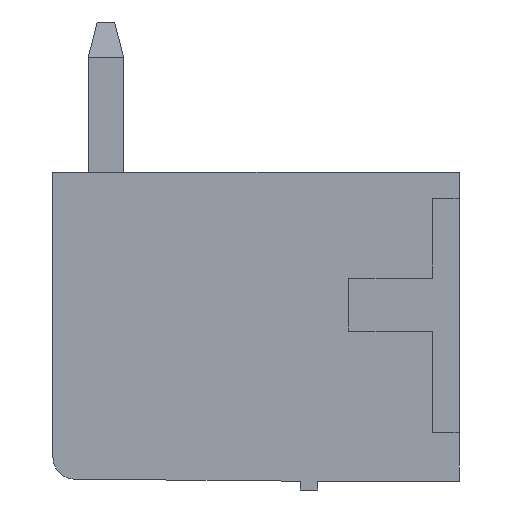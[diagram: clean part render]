
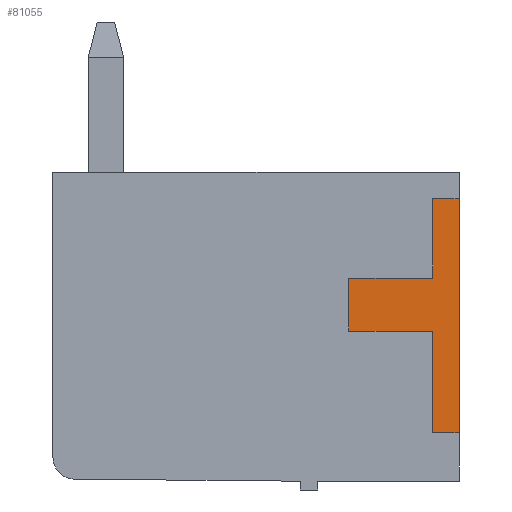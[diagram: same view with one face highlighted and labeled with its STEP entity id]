
A CAD part, left-side view. The second image highlights one B-rep face of the part: STEP entity #81055.
In plain terms, the highlighted planar face has unit normal (-1, 0, 0).
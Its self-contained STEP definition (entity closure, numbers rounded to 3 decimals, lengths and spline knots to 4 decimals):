
#3067 = PLANE('',#3068);
#3068 = AXIS2_PLACEMENT_3D('',#3069,#3070,#3071);
#3069 = CARTESIAN_POINT('',(0.,0.,7.));
#3070 = DIRECTION('',(0.,-1.,0.));
#3071 = DIRECTION('',(0.,0.,-1.));
#3515 = VERTEX_POINT('',#3516);
#3516 = CARTESIAN_POINT('',(-0.2,0.,1.1));
#3530 = PLANE('',#3531);
#3531 = AXIS2_PLACEMENT_3D('',#3532,#3533,#3534);
#3532 = CARTESIAN_POINT('',(0.,0.6,1.1));
#3533 = DIRECTION('',(0.,0.,-1.));
#3534 = DIRECTION('',(0.,-1.,0.));
#3542 = EDGE_CURVE('',#3515,#3543,#3545,.T.);
#3543 = VERTEX_POINT('',#3544);
#3544 = CARTESIAN_POINT('',(-0.2,0.,6.4));
#3545 = SURFACE_CURVE('',#3546,(#3550,#3557),.PCURVE_S1.);
#3546 = LINE('',#3547,#3548);
#3547 = CARTESIAN_POINT('',(-0.2,0.,1.1));
#3548 = VECTOR('',#3549,1.);
#3549 = DIRECTION('',(0.,0.,1.));
#3550 = PCURVE('',#3067,#3551);
#3551 = DEFINITIONAL_REPRESENTATION('',(#3552),#3556);
#3552 = LINE('',#3553,#3554);
#3553 = CARTESIAN_POINT('',(5.9,-0.2));
#3554 = VECTOR('',#3555,1.);
#3555 = DIRECTION('',(-1.,0.));
#3556 = ( GEOMETRIC_REPRESENTATION_CONTEXT(2) 
PARAMETRIC_REPRESENTATION_CONTEXT() REPRESENTATION_CONTEXT('2D SPACE',''
  ) );
#3557 = PCURVE('',#3558,#3563);
#3558 = PLANE('',#3559);
#3559 = AXIS2_PLACEMENT_3D('',#3560,#3561,#3562);
#3560 = CARTESIAN_POINT('',(-0.2,0.,0.));
#3561 = DIRECTION('',(-1.,0.,0.));
#3562 = DIRECTION('',(0.,0.,1.));
#3563 = DEFINITIONAL_REPRESENTATION('',(#3564),#3568);
#3564 = LINE('',#3565,#3566);
#3565 = CARTESIAN_POINT('',(1.1,0.));
#3566 = VECTOR('',#3567,1.);
#3567 = DIRECTION('',(1.,0.));
#3568 = ( GEOMETRIC_REPRESENTATION_CONTEXT(2) 
PARAMETRIC_REPRESENTATION_CONTEXT() REPRESENTATION_CONTEXT('2D SPACE',''
  ) );
#3586 = PLANE('',#3587);
#3587 = AXIS2_PLACEMENT_3D('',#3588,#3589,#3590);
#3588 = CARTESIAN_POINT('',(0.,0.,6.4));
#3589 = DIRECTION('',(0.,0.,1.));
#3590 = DIRECTION('',(0.,1.,0.));
#25181 = PLANE('',#25182);
#25182 = AXIS2_PLACEMENT_3D('',#25183,#25184,#25185);
#25183 = CARTESIAN_POINT('',(0.,0.6,6.4));
#25184 = DIRECTION('',(0.,1.,0.));
#25185 = DIRECTION('',(0.,0.,-1.));
#25209 = PLANE('',#25210);
#25210 = AXIS2_PLACEMENT_3D('',#25211,#25212,#25213);
#25211 = CARTESIAN_POINT('',(0.,0.6,4.6));
#25212 = DIRECTION('',(0.,0.,1.));
#25213 = DIRECTION('',(0.,1.,0.));
#25237 = PLANE('',#25238);
#25238 = AXIS2_PLACEMENT_3D('',#25239,#25240,#25241);
#25239 = CARTESIAN_POINT('',(0.,2.5,4.6));
#25240 = DIRECTION('',(0.,1.,0.));
#25241 = DIRECTION('',(0.,0.,-1.));
#25265 = PLANE('',#25266);
#25266 = AXIS2_PLACEMENT_3D('',#25267,#25268,#25269);
#25267 = CARTESIAN_POINT('',(0.,2.5,3.4));
#25268 = DIRECTION('',(0.,0.,-1.));
#25269 = DIRECTION('',(0.,-1.,0.));
#25293 = PLANE('',#25294);
#25294 = AXIS2_PLACEMENT_3D('',#25295,#25296,#25297);
#25295 = CARTESIAN_POINT('',(0.,0.6,3.4));
#25296 = DIRECTION('',(0.,1.,0.));
#25297 = DIRECTION('',(0.,0.,-1.));
#81012 = EDGE_CURVE('',#3543,#81013,#81015,.T.);
#81013 = VERTEX_POINT('',#81014);
#81014 = CARTESIAN_POINT('',(-0.2,0.6,6.4));
#81015 = SURFACE_CURVE('',#81016,(#81020,#81027),.PCURVE_S1.);
#81016 = LINE('',#81017,#81018);
#81017 = CARTESIAN_POINT('',(-0.2,0.,6.4));
#81018 = VECTOR('',#81019,1.);
#81019 = DIRECTION('',(0.,1.,0.));
#81020 = PCURVE('',#3586,#81021);
#81021 = DEFINITIONAL_REPRESENTATION('',(#81022),#81026);
#81022 = LINE('',#81023,#81024);
#81023 = CARTESIAN_POINT('',(0.,0.2));
#81024 = VECTOR('',#81025,1.);
#81025 = DIRECTION('',(1.,0.));
#81026 = ( GEOMETRIC_REPRESENTATION_CONTEXT(2) 
PARAMETRIC_REPRESENTATION_CONTEXT() REPRESENTATION_CONTEXT('2D SPACE',''
  ) );
#81027 = PCURVE('',#3558,#81028);
#81028 = DEFINITIONAL_REPRESENTATION('',(#81029),#81033);
#81029 = LINE('',#81030,#81031);
#81030 = CARTESIAN_POINT('',(6.4,0.));
#81031 = VECTOR('',#81032,1.);
#81032 = DIRECTION('',(0.,1.));
#81033 = ( GEOMETRIC_REPRESENTATION_CONTEXT(2) 
PARAMETRIC_REPRESENTATION_CONTEXT() REPRESENTATION_CONTEXT('2D SPACE',''
  ) );
#81055 = ADVANCED_FACE('',(#81056),#3558,.T.);
#81056 = FACE_BOUND('',#81057,.F.);
#81057 = EDGE_LOOP('',(#81058,#81059,#81060,#81083,#81106,#81129,#81152,
    #81175));
#81058 = ORIENTED_EDGE('',*,*,#81012,.F.);
#81059 = ORIENTED_EDGE('',*,*,#3542,.F.);
#81060 = ORIENTED_EDGE('',*,*,#81061,.F.);
#81061 = EDGE_CURVE('',#81062,#3515,#81064,.T.);
#81062 = VERTEX_POINT('',#81063);
#81063 = CARTESIAN_POINT('',(-0.2,0.6,1.1));
#81064 = SURFACE_CURVE('',#81065,(#81069,#81076),.PCURVE_S1.);
#81065 = LINE('',#81066,#81067);
#81066 = CARTESIAN_POINT('',(-0.2,0.6,1.1));
#81067 = VECTOR('',#81068,1.);
#81068 = DIRECTION('',(0.,-1.,0.));
#81069 = PCURVE('',#3558,#81070);
#81070 = DEFINITIONAL_REPRESENTATION('',(#81071),#81075);
#81071 = LINE('',#81072,#81073);
#81072 = CARTESIAN_POINT('',(1.1,0.6));
#81073 = VECTOR('',#81074,1.);
#81074 = DIRECTION('',(0.,-1.));
#81075 = ( GEOMETRIC_REPRESENTATION_CONTEXT(2) 
PARAMETRIC_REPRESENTATION_CONTEXT() REPRESENTATION_CONTEXT('2D SPACE',''
  ) );
#81076 = PCURVE('',#3530,#81077);
#81077 = DEFINITIONAL_REPRESENTATION('',(#81078),#81082);
#81078 = LINE('',#81079,#81080);
#81079 = CARTESIAN_POINT('',(0.,0.2));
#81080 = VECTOR('',#81081,1.);
#81081 = DIRECTION('',(1.,0.));
#81082 = ( GEOMETRIC_REPRESENTATION_CONTEXT(2) 
PARAMETRIC_REPRESENTATION_CONTEXT() REPRESENTATION_CONTEXT('2D SPACE',''
  ) );
#81083 = ORIENTED_EDGE('',*,*,#81084,.F.);
#81084 = EDGE_CURVE('',#81085,#81062,#81087,.T.);
#81085 = VERTEX_POINT('',#81086);
#81086 = CARTESIAN_POINT('',(-0.2,0.6,3.4));
#81087 = SURFACE_CURVE('',#81088,(#81092,#81099),.PCURVE_S1.);
#81088 = LINE('',#81089,#81090);
#81089 = CARTESIAN_POINT('',(-0.2,0.6,3.4));
#81090 = VECTOR('',#81091,1.);
#81091 = DIRECTION('',(0.,0.,-1.));
#81092 = PCURVE('',#3558,#81093);
#81093 = DEFINITIONAL_REPRESENTATION('',(#81094),#81098);
#81094 = LINE('',#81095,#81096);
#81095 = CARTESIAN_POINT('',(3.4,0.6));
#81096 = VECTOR('',#81097,1.);
#81097 = DIRECTION('',(-1.,0.));
#81098 = ( GEOMETRIC_REPRESENTATION_CONTEXT(2) 
PARAMETRIC_REPRESENTATION_CONTEXT() REPRESENTATION_CONTEXT('2D SPACE',''
  ) );
#81099 = PCURVE('',#25293,#81100);
#81100 = DEFINITIONAL_REPRESENTATION('',(#81101),#81105);
#81101 = LINE('',#81102,#81103);
#81102 = CARTESIAN_POINT('',(0.,0.2));
#81103 = VECTOR('',#81104,1.);
#81104 = DIRECTION('',(1.,0.));
#81105 = ( GEOMETRIC_REPRESENTATION_CONTEXT(2) 
PARAMETRIC_REPRESENTATION_CONTEXT() REPRESENTATION_CONTEXT('2D SPACE',''
  ) );
#81106 = ORIENTED_EDGE('',*,*,#81107,.F.);
#81107 = EDGE_CURVE('',#81108,#81085,#81110,.T.);
#81108 = VERTEX_POINT('',#81109);
#81109 = CARTESIAN_POINT('',(-0.2,2.5,3.4));
#81110 = SURFACE_CURVE('',#81111,(#81115,#81122),.PCURVE_S1.);
#81111 = LINE('',#81112,#81113);
#81112 = CARTESIAN_POINT('',(-0.2,2.5,3.4));
#81113 = VECTOR('',#81114,1.);
#81114 = DIRECTION('',(0.,-1.,0.));
#81115 = PCURVE('',#3558,#81116);
#81116 = DEFINITIONAL_REPRESENTATION('',(#81117),#81121);
#81117 = LINE('',#81118,#81119);
#81118 = CARTESIAN_POINT('',(3.4,2.5));
#81119 = VECTOR('',#81120,1.);
#81120 = DIRECTION('',(0.,-1.));
#81121 = ( GEOMETRIC_REPRESENTATION_CONTEXT(2) 
PARAMETRIC_REPRESENTATION_CONTEXT() REPRESENTATION_CONTEXT('2D SPACE',''
  ) );
#81122 = PCURVE('',#25265,#81123);
#81123 = DEFINITIONAL_REPRESENTATION('',(#81124),#81128);
#81124 = LINE('',#81125,#81126);
#81125 = CARTESIAN_POINT('',(0.,0.2));
#81126 = VECTOR('',#81127,1.);
#81127 = DIRECTION('',(1.,0.));
#81128 = ( GEOMETRIC_REPRESENTATION_CONTEXT(2) 
PARAMETRIC_REPRESENTATION_CONTEXT() REPRESENTATION_CONTEXT('2D SPACE',''
  ) );
#81129 = ORIENTED_EDGE('',*,*,#81130,.F.);
#81130 = EDGE_CURVE('',#81131,#81108,#81133,.T.);
#81131 = VERTEX_POINT('',#81132);
#81132 = CARTESIAN_POINT('',(-0.2,2.5,4.6));
#81133 = SURFACE_CURVE('',#81134,(#81138,#81145),.PCURVE_S1.);
#81134 = LINE('',#81135,#81136);
#81135 = CARTESIAN_POINT('',(-0.2,2.5,4.6));
#81136 = VECTOR('',#81137,1.);
#81137 = DIRECTION('',(0.,0.,-1.));
#81138 = PCURVE('',#3558,#81139);
#81139 = DEFINITIONAL_REPRESENTATION('',(#81140),#81144);
#81140 = LINE('',#81141,#81142);
#81141 = CARTESIAN_POINT('',(4.6,2.5));
#81142 = VECTOR('',#81143,1.);
#81143 = DIRECTION('',(-1.,0.));
#81144 = ( GEOMETRIC_REPRESENTATION_CONTEXT(2) 
PARAMETRIC_REPRESENTATION_CONTEXT() REPRESENTATION_CONTEXT('2D SPACE',''
  ) );
#81145 = PCURVE('',#25237,#81146);
#81146 = DEFINITIONAL_REPRESENTATION('',(#81147),#81151);
#81147 = LINE('',#81148,#81149);
#81148 = CARTESIAN_POINT('',(0.,0.2));
#81149 = VECTOR('',#81150,1.);
#81150 = DIRECTION('',(1.,0.));
#81151 = ( GEOMETRIC_REPRESENTATION_CONTEXT(2) 
PARAMETRIC_REPRESENTATION_CONTEXT() REPRESENTATION_CONTEXT('2D SPACE',''
  ) );
#81152 = ORIENTED_EDGE('',*,*,#81153,.F.);
#81153 = EDGE_CURVE('',#81154,#81131,#81156,.T.);
#81154 = VERTEX_POINT('',#81155);
#81155 = CARTESIAN_POINT('',(-0.2,0.6,4.6));
#81156 = SURFACE_CURVE('',#81157,(#81161,#81168),.PCURVE_S1.);
#81157 = LINE('',#81158,#81159);
#81158 = CARTESIAN_POINT('',(-0.2,0.6,4.6));
#81159 = VECTOR('',#81160,1.);
#81160 = DIRECTION('',(0.,1.,0.));
#81161 = PCURVE('',#3558,#81162);
#81162 = DEFINITIONAL_REPRESENTATION('',(#81163),#81167);
#81163 = LINE('',#81164,#81165);
#81164 = CARTESIAN_POINT('',(4.6,0.6));
#81165 = VECTOR('',#81166,1.);
#81166 = DIRECTION('',(0.,1.));
#81167 = ( GEOMETRIC_REPRESENTATION_CONTEXT(2) 
PARAMETRIC_REPRESENTATION_CONTEXT() REPRESENTATION_CONTEXT('2D SPACE',''
  ) );
#81168 = PCURVE('',#25209,#81169);
#81169 = DEFINITIONAL_REPRESENTATION('',(#81170),#81174);
#81170 = LINE('',#81171,#81172);
#81171 = CARTESIAN_POINT('',(0.,0.2));
#81172 = VECTOR('',#81173,1.);
#81173 = DIRECTION('',(1.,0.));
#81174 = ( GEOMETRIC_REPRESENTATION_CONTEXT(2) 
PARAMETRIC_REPRESENTATION_CONTEXT() REPRESENTATION_CONTEXT('2D SPACE',''
  ) );
#81175 = ORIENTED_EDGE('',*,*,#81176,.F.);
#81176 = EDGE_CURVE('',#81013,#81154,#81177,.T.);
#81177 = SURFACE_CURVE('',#81178,(#81182,#81189),.PCURVE_S1.);
#81178 = LINE('',#81179,#81180);
#81179 = CARTESIAN_POINT('',(-0.2,0.6,6.4));
#81180 = VECTOR('',#81181,1.);
#81181 = DIRECTION('',(0.,0.,-1.));
#81182 = PCURVE('',#3558,#81183);
#81183 = DEFINITIONAL_REPRESENTATION('',(#81184),#81188);
#81184 = LINE('',#81185,#81186);
#81185 = CARTESIAN_POINT('',(6.4,0.6));
#81186 = VECTOR('',#81187,1.);
#81187 = DIRECTION('',(-1.,0.));
#81188 = ( GEOMETRIC_REPRESENTATION_CONTEXT(2) 
PARAMETRIC_REPRESENTATION_CONTEXT() REPRESENTATION_CONTEXT('2D SPACE',''
  ) );
#81189 = PCURVE('',#25181,#81190);
#81190 = DEFINITIONAL_REPRESENTATION('',(#81191),#81195);
#81191 = LINE('',#81192,#81193);
#81192 = CARTESIAN_POINT('',(0.,0.2));
#81193 = VECTOR('',#81194,1.);
#81194 = DIRECTION('',(1.,0.));
#81195 = ( GEOMETRIC_REPRESENTATION_CONTEXT(2) 
PARAMETRIC_REPRESENTATION_CONTEXT() REPRESENTATION_CONTEXT('2D SPACE',''
  ) );
